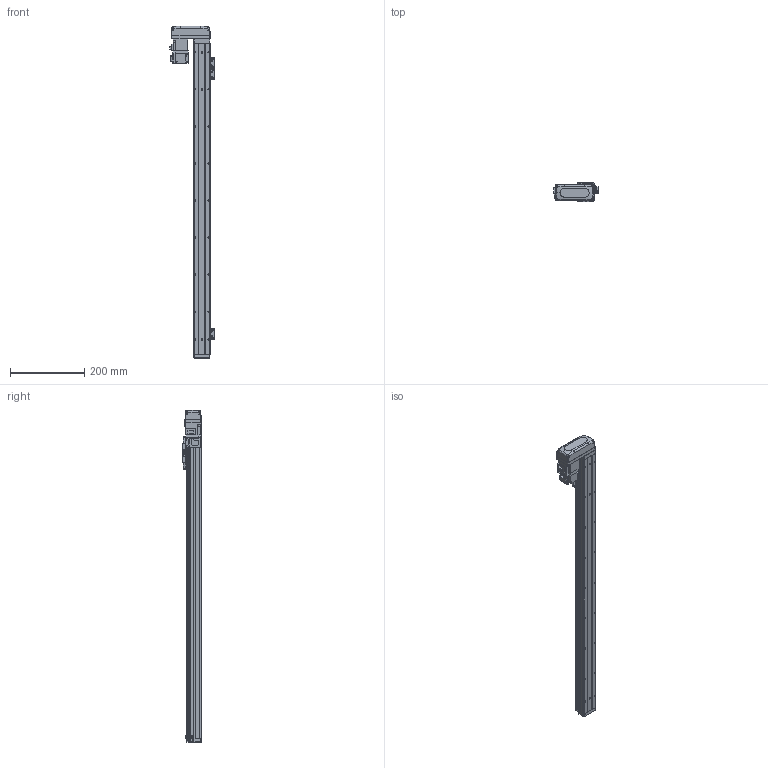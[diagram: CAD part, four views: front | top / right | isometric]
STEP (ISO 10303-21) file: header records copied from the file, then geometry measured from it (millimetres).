
FILE_DESCRIPTION (( 'STEP AP203' ), '1' );
FILE_NAME ('GTH4-700-BR-M05-C4.step', '2023-08-28T00:44:59', ( '微软用户' ), ( '微软中国' ), 'SwSTEP 2.0', 'SolidWorks 2020', '' );
FILE_SCHEMA (( 'CONFIG_CONTROL_DESIGN' ));
Length unit declared in the file: millimetre
Products named in the file (19): BTH50-024; HG-KR13; BTH40-003; GBT 70.1-M3℅6; GBT 70.3-M3℅6; BTH40-006; GBT96.1-2002 3×0.8; BTH40-027-1; BTH-M3X5X6; BTH40-022; BTH50-026; GBT70.1-2000 M3×16; GBT 70.1-M2.5×6; GTH4-700-BR-M05-C4; BTH50-028; BTH40-004; BTH50-023; BTH40-013; BTH40-001-50_BTH40-001-700
Assembly tree (47 placements, depth 2):
  GTH4-700-BR-M05-C4
    BTH40-001-50_BTH40-001-700
    BTH40-003
    BTH40-006
    BTH-M3X5X6  x8
    GBT70.1-2000 M3×16  x4
    BTH50-028  x2
    BTH50-023  x3
    BTH50-024  x3
    GBT 70.1-M3℅6  x6
    GBT96.1-2002 3×0.8  x6
    BTH40-022
    GBT 70.1-M2.5×6  x2
    BTH40-004
    BTH40-013
    HG-KR13
    GBT 70.3-M3℅6  x4
    BTH40-027-1
    BTH50-026
Bounding box: 120 x 52 x 896 mm (x, y, z)
Volume: 1572888.3 mm3; surface area: 266812.4 mm2
Topology: 49 solids, 49 shells, 1991 faces, 4683 edges, 2882 vertices
Faces by surface type: plane 1052, cylinder 503, cone 270, torus 128, bspline 34, sphere 4
Entity records: 39987 total; most frequent: CARTESIAN_POINT 7642, DIRECTION 6280, ORIENTED_EDGE 6012, EDGE_CURVE 3006, AXIS2_PLACEMENT_3D 2155, LINE 1970, VECTOR 1970, VERTEX_POINT 1869
